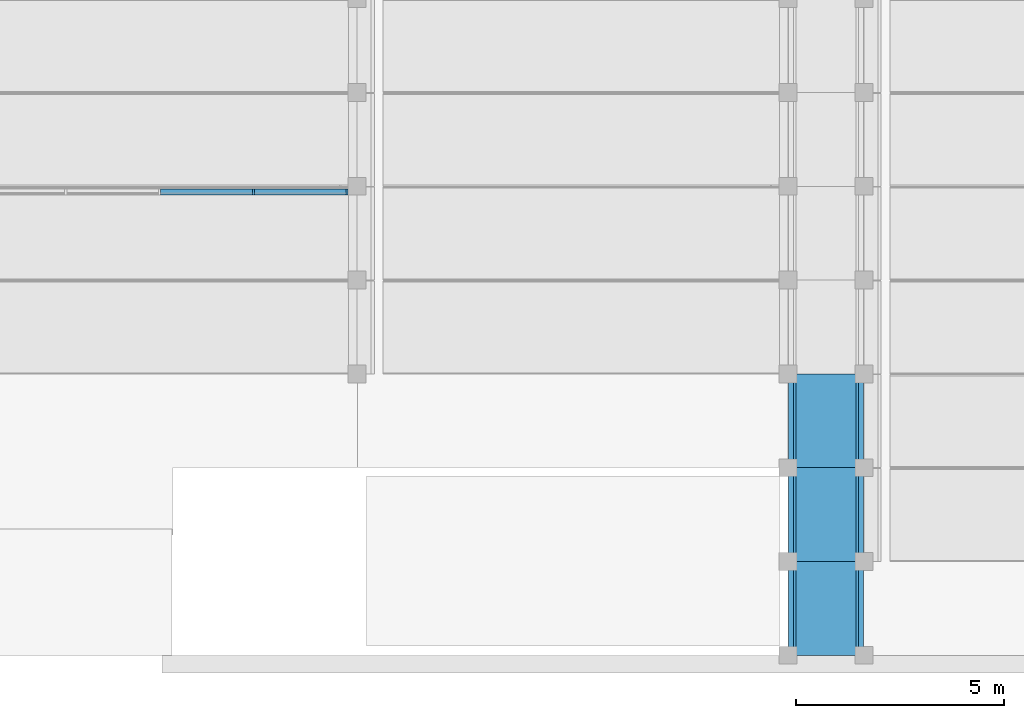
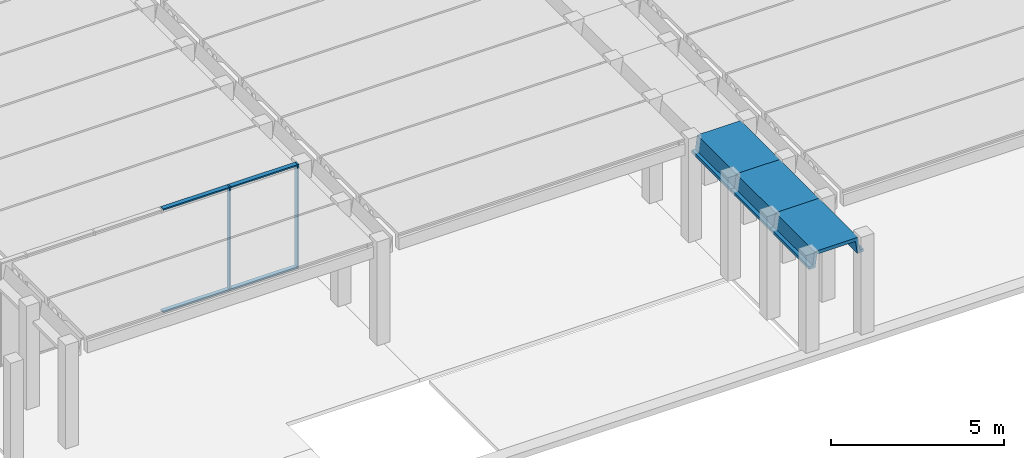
# One storey, part 13 of 25: 6 members, 3 beams, 1 element without a shape of its own.
"""IFC2X3 building model written with IfcOpenShell, lengths in millimetres."""

from ifc_helpers import new_model, entity, si_unit, converted_unit, derived_unit, direction, frame, origin, origin_2d_with_axis, place, context, subcontext, project, spatial, polyline, rectangle, outline, extrude, source, transform, mapped, material, type_object, type_shapes, element, aggregate, save


model = new_model("IFC2X3")

# Units and contexts
model_context = context("Model", 3, precision=0.01, world=origin(), true_north=direction((6.12303176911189e-17, 1.0)))
body_context = subcontext(model_context, "Body", "Model", "MODEL_VIEW")
ifc_project = project(units=[si_unit("LENGTHUNIT", "METRE", prefix="MILLI"), si_unit("AREAUNIT", "SQUARE_METRE"), si_unit("VOLUMEUNIT", "CUBIC_METRE"), converted_unit("PLANEANGLEUNIT", "DEGREE", entity("IfcRatioMeasure", 0.0174532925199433), si_unit("PLANEANGLEUNIT", "RADIAN"), dimensions=[0, 0, 0, 0, 0, 0, 0]), si_unit("MASSUNIT", "GRAM", prefix="KILO"), derived_unit("MASSDENSITYUNIT", [(si_unit("MASSUNIT", "GRAM", prefix="KILO"), 1), (si_unit("LENGTHUNIT", "METRE"), -3)]), derived_unit("MOMENTOFINERTIAUNIT", [(si_unit("LENGTHUNIT", "METRE"), 4)]), si_unit("TIMEUNIT", "SECOND"), si_unit("FREQUENCYUNIT", "HERTZ"), si_unit("THERMODYNAMICTEMPERATUREUNIT", "DEGREE_CELSIUS"), derived_unit("THERMALTRANSMITTANCEUNIT", [(si_unit("MASSUNIT", "GRAM", prefix="KILO"), 1), (si_unit("THERMODYNAMICTEMPERATUREUNIT", "KELVIN"), -1), (si_unit("TIMEUNIT", "SECOND"), -3)]), derived_unit("VOLUMETRICFLOWRATEUNIT", [(si_unit("LENGTHUNIT", "METRE"), 3), (si_unit("TIMEUNIT", "SECOND"), -1)]), si_unit("ELECTRICCURRENTUNIT", "AMPERE"), si_unit("ELECTRICVOLTAGEUNIT", "VOLT"), si_unit("POWERUNIT", "WATT"), si_unit("FORCEUNIT", "NEWTON", prefix="KILO"), si_unit("ILLUMINANCEUNIT", "LUX"), si_unit("LUMINOUSFLUXUNIT", "LUMEN"), si_unit("LUMINOUSINTENSITYUNIT", "CANDELA"), derived_unit("USERDEFINED", [(si_unit("MASSUNIT", "GRAM", prefix="KILO"), -1), (si_unit("LENGTHUNIT", "METRE"), -2), (si_unit("TIMEUNIT", "SECOND"), 3), (si_unit("LUMINOUSFLUXUNIT", "LUMEN"), 1)]), derived_unit("LINEARVELOCITYUNIT", [(si_unit("LENGTHUNIT", "METRE"), 1), (si_unit("TIMEUNIT", "SECOND"), -1)]), si_unit("PRESSUREUNIT", "PASCAL"), derived_unit("USERDEFINED", [(si_unit("LENGTHUNIT", "METRE"), -2), (si_unit("MASSUNIT", "GRAM", prefix="KILO"), 1), (si_unit("TIMEUNIT", "SECOND"), -2)]), derived_unit("LINEARFORCEUNIT", [(si_unit("MASSUNIT", "GRAM", prefix="KILO"), 1), (si_unit("LENGTHUNIT", "METRE"), 1), (si_unit("TIMEUNIT", "SECOND"), -2), (si_unit("LENGTHUNIT", "METRE"), -1)]), derived_unit("PLANARFORCEUNIT", [(si_unit("MASSUNIT", "GRAM", prefix="KILO"), 1), (si_unit("LENGTHUNIT", "METRE"), 1), (si_unit("TIMEUNIT", "SECOND"), -2), (si_unit("LENGTHUNIT", "METRE"), -2)])], contexts=[model_context])

# Site, building, storey
site_placement = place(None, frame((10627.5135316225, 21939.0796949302, 0.0)))
site = spatial("IfcSite", under=ifc_project, at=site_placement, Name="Default", CompositionType="ELEMENT")
building_placement = place(site_placement, origin())
building = spatial("IfcBuilding", under=site, at=building_placement, CompositionType="ELEMENT")
storey_placement = place(building_placement, origin())
storey = spatial("IfcBuildingStorey", under=building, at=storey_placement, Name="RDC", CompositionType="ELEMENT", Elevation=0.0)

# Beams
ifc_material_1 = material(Name="Concrete, Precast Smooth, Light Grey")
beam_type = type_object("IfcBeamType", Name="Poutre petite:Poutre petite", PredefinedType="NOTDEFINED")
for number, where, z_axis, x_axis, name in (
    (1, (52487.4864683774, -17419.0796949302, 3530.0), (0.0, 0.0, 1.0), (0.0, 1.0, 0.0), "Poutre petite:Poutre petite"),
    (2, (52487.4864683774, -19679.0796949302, 3530.0), (0.0, 0.0, 1.0), (0.0, 1.0, 0.0), "Poutre petite:Poutre petite"),
    (3, (52487.4864683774, -21939.0796949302, 3530.0), (0.0, 0.0, 1.0), (0.0, 1.0, 0.0), "Poutre petite:Poutre petite"),
):
    element("IfcBeam", number, at=place(storey_placement, frame(where, z_axis=z_axis, x_axis=x_axis)), inside=storey, type_object=beam_type, material=ifc_material_1, Name=name, ObjectType="Poutre petite:Poutre petite", context=body_context, shape_type="SweptSolid", body=[
        extrude(outline(polyline([(103.333217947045, -905.014058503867), (203.333564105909, -905.014058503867), (203.333564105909, -700.0135432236), (-246.666782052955, -640.013497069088), (-246.666782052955, 640.013684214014), (203.333564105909, 700.013730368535), (203.333564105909, 905.013684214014), (103.333217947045, 905.013684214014), (103.333217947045, 785.013684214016), (-366.666782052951, 725.01368421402), (-366.666782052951, -725.013497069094), (103.333217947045, -785.013497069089), (103.333217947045, -905.014058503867)])), frame((0.0, 0.000187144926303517, -366.666782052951), z_axis=(1.0, 0.0, 0.0), x_axis=(0.0, 0.0, -1.0)), (0.0, 0.0, 1.0), 2260.0),
    ])

# Curtain wall, members
curtain_wall_type = type_object("IfcCurtainWallType", Name="Curtain Wall:Curtain_Wall-Empty 2", PredefinedType="NOTDEFINED")
curtain_wall_placement = place(storey_placement, origin())
curtain_wall = element("IfcCurtainWall", 4, at=curtain_wall_placement, inside=storey, type_object=curtain_wall_type, Name="Curtain Wall:Curtain_Wall-Empty 2", ObjectType="Curtain Wall:Curtain_Wall-Empty 2")
ifc_material_2 = material(Name="Aluminium")
member_type_1 = type_object("IfcMemberType", Name="Rectangular Mullion:50x150mm", PredefinedType="MULLION", material=ifc_material_2)
shared_shape_1 = source(origin(), body_context, "Body", "SweptSolid", [
    extrude(rectangle(XDim=150.0, YDim=50.0, at=origin_2d_with_axis()), frame((-25.0, 0.0, -2210.0), z_axis=(0.0, 0.0, 1.0), x_axis=(0.0, -1.0, 0.0)), (0.0, 0.0, 1.0), 2210.0000003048),
])
type_shapes(member_type_1, [shared_shape_1])
member_1_placement = place(storey_placement, frame((38719.4864680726, -10774.0796949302, 3660.0), z_axis=(-1.0, 0.0, 0.0), x_axis=(0.0, 0.0, 1.0)))
member_1 = element("IfcMember", 5, at=member_1_placement, type_object=member_type_1, material=ifc_material_2, Name="Rectangular Mullion:50x150mm", ObjectType="Rectangular Mullion:50x150mm", context=body_context, shape_type="MappedRepresentation", body=[
    mapped(shared_shape_1, transform((0.0, 0.0, 0.0), scale=1.0)),
])
member_2_placement = place(storey_placement, frame((36459.4864680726, -10774.0796949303, 3660.0), z_axis=(-1.0, 0.0, 0.0), x_axis=(0.0, 0.0, 1.0)))
member_2 = element("IfcMember", 6, at=member_2_placement, type_object=member_type_1, material=ifc_material_2, Name="Rectangular Mullion:50x150mm", ObjectType="Rectangular Mullion:50x150mm", context=body_context, shape_type="MappedRepresentation", body=[
    mapped(shared_shape_1, transform((0.0, 0.0, 0.0), scale=1.0)),
])
member_type_2 = type_object("IfcMemberType", Name="Rectangular Mullion:50x150mm", PredefinedType="MULLION", material=ifc_material_2)
shared_shape_2 = source(origin(), body_context, "Body", "SweptSolid", [
    extrude(rectangle(XDim=150.0, YDim=50.0, at=origin_2d_with_axis()), frame((-25.0, 0.0, -2210.0), z_axis=(0.0, 0.0, 1.0), x_axis=(0.0, -1.0, 0.0)), (0.0, 0.0, 1.0), 2210.0000003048),
])
type_shapes(member_type_2, [shared_shape_2])
member_3_placement = place(storey_placement, frame((40929.4864683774, -10774.0796949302, 0.0), z_axis=(1.0, 0.0, 0.0), x_axis=(0.0, 0.0, -1.0)))
member_3 = element("IfcMember", 7, at=member_3_placement, type_object=member_type_2, material=ifc_material_2, Name="Rectangular Mullion:50x150mm", ObjectType="Rectangular Mullion:50x150mm", context=body_context, shape_type="MappedRepresentation", body=[
    mapped(shared_shape_2, transform((0.0, 0.0, 0.0), scale=1.0)),
])
member_4_placement = place(storey_placement, frame((38669.4864680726, -10774.0796949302, 0.0), z_axis=(1.0, 0.0, 0.0), x_axis=(0.0, 0.0, -1.0)))
member_4 = element("IfcMember", 8, at=member_4_placement, type_object=member_type_2, material=ifc_material_2, Name="Rectangular Mullion:50x150mm", ObjectType="Rectangular Mullion:50x150mm", context=body_context, shape_type="MappedRepresentation", body=[
    mapped(shared_shape_2, transform((0.0, 0.0, 0.0), scale=1.0)),
])
member_type_3 = type_object("IfcMemberType", Name="Rectangular Mullion:50x150mm", PredefinedType="MULLION", material=ifc_material_2)
shared_shape_3 = source(origin(), body_context, "Body", "SweptSolid", [
    extrude(rectangle(XDim=150.0, YDim=50.0, at=origin_2d_with_axis()), frame((-25.0, 0.0, -3660.0), z_axis=(0.0, 0.0, 1.0), x_axis=(0.0, -1.0, 0.0)), (0.0, 0.0, 1.0), 3660.0),
])
type_shapes(member_type_3, [shared_shape_3])
member_5_placement = place(storey_placement, frame((40979.4864683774, -10774.0796949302, 3660.0)))
member_5 = element("IfcMember", 9, at=member_5_placement, type_object=member_type_3, material=ifc_material_2, Name="Rectangular Mullion:50x150mm", ObjectType="Rectangular Mullion:50x150mm", context=body_context, shape_type="MappedRepresentation", body=[
    mapped(shared_shape_3, transform((0.0, 0.0, 0.0), scale=1.0)),
])
member_type_4 = type_object("IfcMemberType", Name="Rectangular Mullion:50x150mm", PredefinedType="MULLION", material=ifc_material_2)
shared_shape_4 = source(origin(), body_context, "Body", "SweptSolid", [
    extrude(rectangle(XDim=150.0, YDim=50.0, at=origin_2d_with_axis()), frame((0.0, 0.0, -3660.0), z_axis=(0.0, 0.0, 1.0), x_axis=(0.0, -1.0, 0.0)), (0.0, 0.0, 1.0), 3660.0),
])
type_shapes(member_type_4, [shared_shape_4])
member_6_placement = place(storey_placement, frame((38694.4864680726, -10774.0796949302, 0.0), z_axis=(0.0, 0.0, -1.0), x_axis=(-1.0, 0.0, 0.0)))
member_6 = element("IfcMember", 10, at=member_6_placement, type_object=member_type_4, material=ifc_material_2, Name="Rectangular Mullion:50x150mm", ObjectType="Rectangular Mullion:50x150mm", context=body_context, shape_type="MappedRepresentation", body=[
    mapped(shared_shape_4, transform((0.0, 0.0, 0.0), scale=1.0)),
])
aggregate(curtain_wall, [member_1, member_2, member_3, member_4, member_5, member_6])

save(model, "model.ifc")
